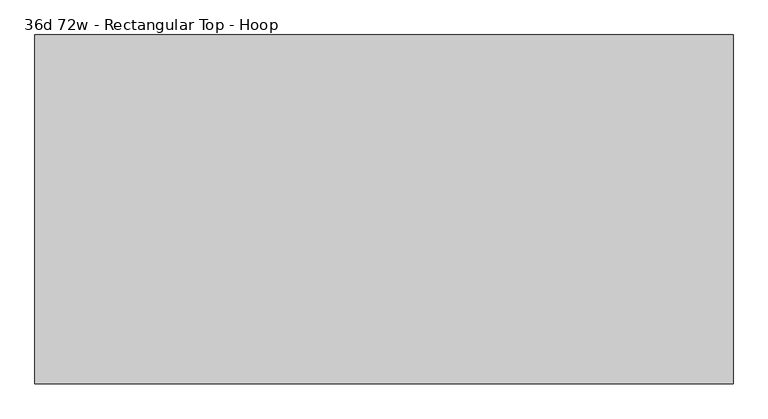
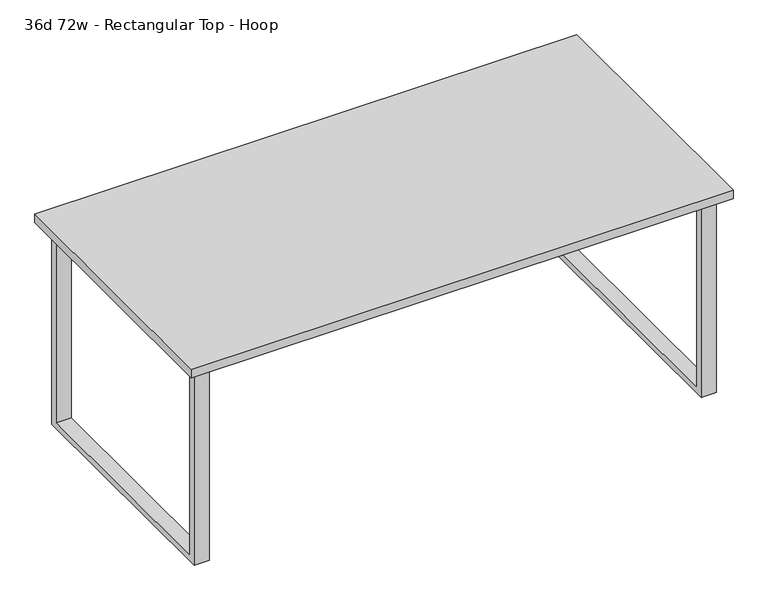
"""IFC4 building model written with IfcOpenShell, lengths in millimetres: furniture geometry, Haworth_Masters_Table-Rectangular : 36d 72w - Rectangular Top - Hoop."""

from ifc_helpers import new_model, si_unit, frame, origin, place, context, project, spatial, polyline, outline, extrude, source, transform, mapped, element, save


def furniture_36d_72w_rectangular_top_hoop_b228a794(model_context):
    return source(origin(), model_context, "Body", "SweptSolid", [
        extrude(outline(polyline([(390.525, 706.4375), (415.925, 706.4375), (415.925, 0.0), (-415.925, 0.0), (-415.925, 706.4375), (-390.525, 706.4375), (-390.525, 20.6375), (390.525, 20.6375), (390.525, 706.4375)])), frame((-881.38, 0.0, 0.0), z_axis=(1.0, 0.0, 0.0), x_axis=(0.0, 1.0, 0.0)), (0.0, 0.0, 1.0), 50.8),
        extrude(outline(polyline([(390.525, 706.4375), (415.925, 706.4375), (415.925, 0.0), (-415.925, 0.0), (-415.925, 706.4375), (-390.525, 706.4375), (-390.525, 20.6375), (390.525, 20.6375), (390.525, 706.4375)])), frame((830.58, 0.0, 0.0), z_axis=(1.0, 0.0, 0.0), x_axis=(0.0, 1.0, 0.0)), (0.0, 0.0, 1.0), 50.8),
        extrude(outline(polyline([(914.4, 457.2), (914.4, -457.2), (-914.4, -457.2), (-914.4, 457.2), (914.4, 457.2)])), frame((0.0, 0.0, 706.4375), z_axis=(0.0, 0.0, 1.0), x_axis=(1.0, 0.0, 0.0)), (0.0, 0.0, 1.0), 30.1625),
    ])


if __name__ == "__main__":
    model = new_model("IFC4")
    model_context = context("Model", 3, world=origin())
    ifc_project = project(units=[si_unit("LENGTHUNIT", "METRE", prefix="MILLI")], contexts=[model_context])
    site = spatial("IfcSite", under=ifc_project)
    building = spatial("IfcBuilding", under=site)
    placement = place(None, origin())
    furniture_36d_72w_rectangular_top_hoop_shape = furniture_36d_72w_rectangular_top_hoop_b228a794(model_context)
    element("IfcFurniture", 1, ObjectType="Haworth_Masters_Table-Rectangular : 36d 72w - Rectangular Top - Hoop", at=placement, inside=building, context=model_context, shape_type="MappedRepresentation", body=[
        mapped(furniture_36d_72w_rectangular_top_hoop_shape, transform((0.0, 0.0, 0.0), x_axis=(1.0, 0.0, 0.0), y_axis=(0.0, 1.0, 0.0), z_axis=(0.0, 0.0, 1.0))),
    ])
    save(model, "model.ifc")
